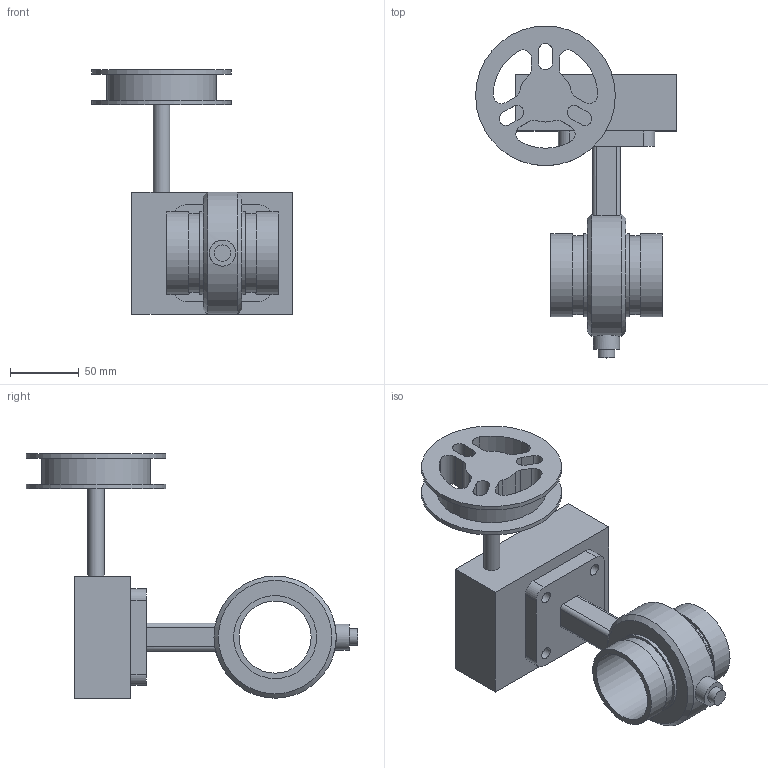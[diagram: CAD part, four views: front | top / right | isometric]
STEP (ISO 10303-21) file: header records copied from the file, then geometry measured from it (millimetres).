
FILE_DESCRIPTION(/* description */ ('VIC SS BUTTERFLY VALVE GO CW SERIES 250-S (OGS)'),/* implementation_level */ '2;1');
FILE_NAME(/* name */ 'C:\Files for Export\250-S\Victaulic_SS_Vlv Btfl GO CW_Series 250-S (OGS)\Victaulic_SS_Vlv Btfl GO CW_Series 250-S (OGS)_2 (50).stp',/* time_stamp */ '2024-10-14T13:12:24+02:00',/* author */ ('cps_temp'),/* organization */ ('Victaulic'),/* preprocessor_version */ 'ST-DEVELOPER v18.1',/* originating_system */ 'Autodesk Inventor 2020',/* authorisation */ '');
FILE_SCHEMA (('AUTOMOTIVE_DESIGN { 1 0 10303 214 3 1 1 }'));
Length unit declared in the file: inch
Products named in the file (1): 250-S4-02.0
Bounding box: 146.05 x 241.3 x 177.8 mm (x, y, z)
Volume: 725780.8 mm3; surface area: 128264.3 mm2
Topology: 1 solids, 2 shells, 101 faces, 258 edges, 179 vertices
Faces by surface type: cylinder 52, plane 47, cone 2
Full cylindrical faces by diameter (mm): 8.636 x4, 11.938 x3, 19.05 x1, 52.502 x1, 55.118 x1, 57.15 x2, 60.325 x4, 79.375 x1, 88.9 x1, 101.6 x2
Entity records: 3395 total; most frequent: CARTESIAN_POINT 610, DIRECTION 581, ORIENTED_EDGE 516, EDGE_CURVE 258, AXIS2_PLACEMENT_3D 228, VERTEX_POINT 179, EDGE_LOOP 135, CIRCLE 126
